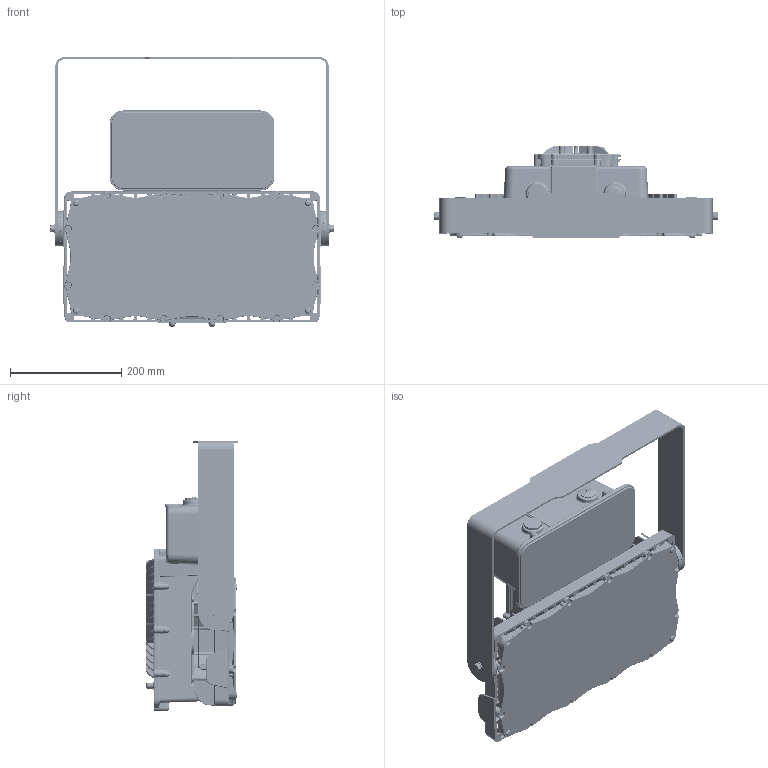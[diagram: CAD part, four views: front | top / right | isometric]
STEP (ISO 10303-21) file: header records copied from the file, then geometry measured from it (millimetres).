
FILE_DESCRIPTION((''),'2;1');
FILE_NAME('F1X_47_XXXX_DJ_FNXXN_SW','2021-04-12T10:02:01',('gatsonnb'),(''),'CREO PARAMETRIC BY PTC INC, 2019080','CREO PARAMETRIC BY PTC INC, 2019080','');
FILE_SCHEMA(('CONFIG_CONTROL_DESIGN'));
Products named in the file (1): F1X_47_XXXX_DJ_FNXXN_SW
Bounding box: 508.79 x 166.88 x 485.22 mm (x, y, z)
Volume: 8321780 mm3; surface area: 1344351.9 mm2
Topology: 2 solids, 28 shells, 13196 faces, 30400 edges, 17215 vertices
Faces by surface type: bspline 5772, cylinder 3168, plane 1846, cone 956, torus 924, sphere 530
Entity records: 754344 total; most frequent: CARTESIAN_POINT 504235, ORIENTED_EDGE 60782, DIRECTION 40320, EDGE_CURVE 30391, VERTEX_POINT 17215, AXIS2_PLACEMENT_3D 16604, B_SPLINE_CURVE_WITH_KNOTS 14099, EDGE_LOOP 13280
